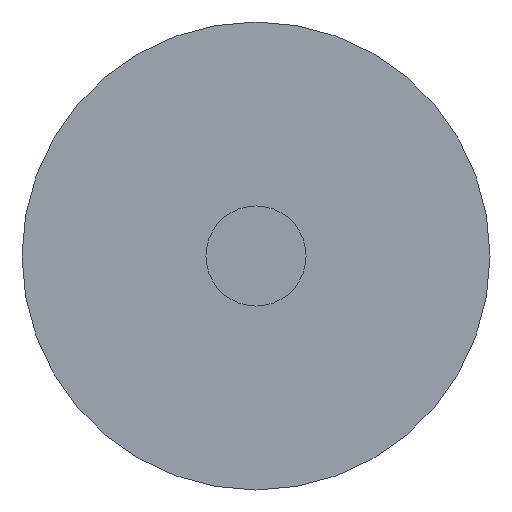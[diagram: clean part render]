
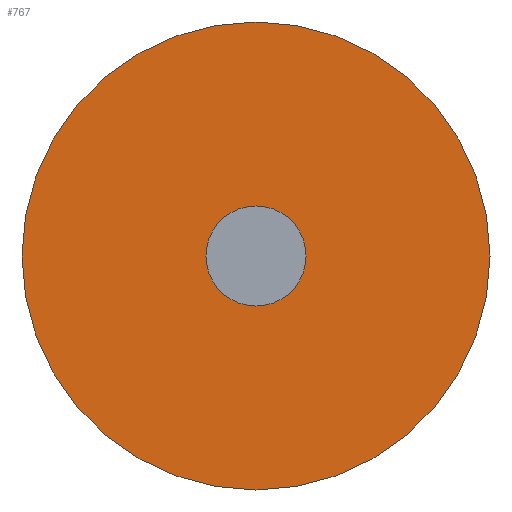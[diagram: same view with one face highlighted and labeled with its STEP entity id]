
A CAD part, left-side view. The second image highlights one B-rep face of the part: STEP entity #767.
In plain terms, the highlighted planar face has unit normal (-1, 0, 0).
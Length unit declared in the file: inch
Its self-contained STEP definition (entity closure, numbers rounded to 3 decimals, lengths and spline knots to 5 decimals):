
#97 = DIRECTION ( 'NONE',  ( 0., 0., 1. ) ) ;
#145 = CARTESIAN_POINT ( 'NONE',  ( 0., 0., 0. ) ) ;
#156 = VERTEX_POINT ( 'NONE', #1061 ) ;
#162 = DIRECTION ( 'NONE',  ( 0., 0., 1. ) ) ;
#169 = EDGE_CURVE ( 'NONE', #1161, #971, #185, .T. ) ;
#185 = CIRCLE ( 'NONE', #626, 0.09352 ) ;
#213 = EDGE_CURVE ( 'NONE', #156, #330, #1167, .T. ) ;
#267 = CARTESIAN_POINT ( 'NONE',  ( 0., 0., 0. ) ) ;
#270 = ORIENTED_EDGE ( 'NONE', *, *, #213, .F. ) ;
#271 = CARTESIAN_POINT ( 'NONE',  ( 0., 0., 0.09352 ) ) ;
#320 = CARTESIAN_POINT ( 'NONE',  ( 0., 0., 0. ) ) ;
#330 = VERTEX_POINT ( 'NONE', #1233 ) ;
#426 = FACE_BOUND ( 'NONE', #539, .T. ) ;
#475 = AXIS2_PLACEMENT_3D ( 'NONE', #320, #744, #1138 ) ;
#492 = CARTESIAN_POINT ( 'NONE',  ( 0., 0., -0.09352 ) ) ;
#539 = EDGE_LOOP ( 'NONE', ( #700, #270 ) ) ;
#568 = DIRECTION ( 'NONE',  ( -1., 0., 0. ) ) ;
#616 = CARTESIAN_POINT ( 'NONE',  ( 0., 0., 0. ) ) ;
#618 = AXIS2_PLACEMENT_3D ( 'NONE', #267, #698, #1084 ) ;
#626 = AXIS2_PLACEMENT_3D ( 'NONE', #145, #568, #969 ) ;
#636 = CIRCLE ( 'NONE', #618, 0.09352 ) ;
#670 = EDGE_CURVE ( 'NONE', #971, #1161, #636, .T. ) ;
#690 = CARTESIAN_POINT ( 'NONE',  ( 0., 0., 0. ) ) ;
#698 = DIRECTION ( 'NONE',  ( -1., 0., 0. ) ) ;
#700 = ORIENTED_EDGE ( 'NONE', *, *, #1219, .F. ) ;
#744 = DIRECTION ( 'NONE',  ( 1., 0., 0. ) ) ;
#767 = ADVANCED_FACE ( 'NONE', ( #426, #846 ), #1247, .F. ) ;
#799 = ORIENTED_EDGE ( 'NONE', *, *, #169, .T. ) ;
#846 = FACE_OUTER_BOUND ( 'NONE', #1159, .T. ) ;
#908 = AXIS2_PLACEMENT_3D ( 'NONE', #690, #1077, #162 ) ;
#969 = DIRECTION ( 'NONE',  ( 0., 0., 1. ) ) ;
#971 = VERTEX_POINT ( 'NONE', #271 ) ;
#1016 = DIRECTION ( 'NONE',  ( -1., 0., 0. ) ) ;
#1061 = CARTESIAN_POINT ( 'NONE',  ( 0., 0., -0.02 ) ) ;
#1065 = CIRCLE ( 'NONE', #1239, 0.02 ) ;
#1077 = DIRECTION ( 'NONE',  ( -1., 0., 0. ) ) ;
#1084 = DIRECTION ( 'NONE',  ( 0., 0., 1. ) ) ;
#1138 = DIRECTION ( 'NONE',  ( 0., 0., -1. ) ) ;
#1159 = EDGE_LOOP ( 'NONE', ( #1192, #799 ) ) ;
#1161 = VERTEX_POINT ( 'NONE', #492 ) ;
#1167 = CIRCLE ( 'NONE', #908, 0.02 ) ;
#1192 = ORIENTED_EDGE ( 'NONE', *, *, #670, .T. ) ;
#1219 = EDGE_CURVE ( 'NONE', #330, #156, #1065, .T. ) ;
#1233 = CARTESIAN_POINT ( 'NONE',  ( 0., 0., 0.02 ) ) ;
#1239 = AXIS2_PLACEMENT_3D ( 'NONE', #616, #1016, #97 ) ;
#1247 = PLANE ( 'NONE',  #475 ) ;
